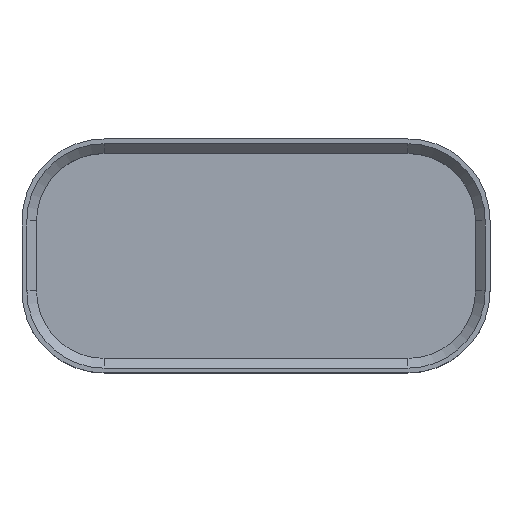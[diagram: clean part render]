
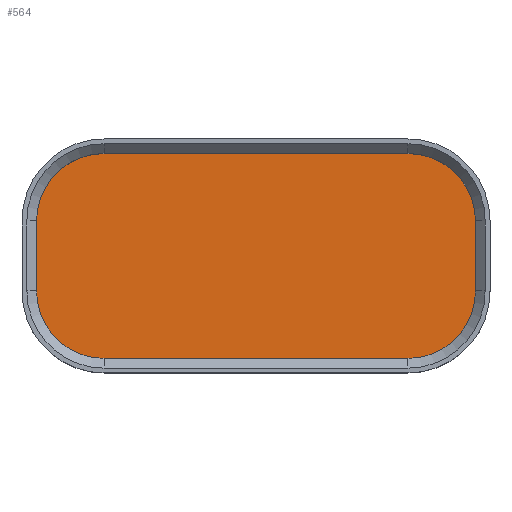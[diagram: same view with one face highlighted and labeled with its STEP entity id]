
A CAD part, top view. The second image highlights one B-rep face of the part: STEP entity #564.
In plain terms, the highlighted planar face has unit normal (0, 0, 1).
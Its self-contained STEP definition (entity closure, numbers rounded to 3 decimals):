
#30=PLANE('',#643);
#69=LINE('',#963,#117);
#72=LINE('',#971,#120);
#75=LINE('',#984,#123);
#76=LINE('',#987,#124);
#117=VECTOR('',#790,10.);
#120=VECTOR('',#799,10.);
#123=VECTOR('',#812,10.);
#124=VECTOR('',#815,10.);
#169=FACE_OUTER_BOUND('',#205,.T.);
#205=EDGE_LOOP('',(#494,#495,#496,#497,#498,#499,#500,#501));
#240=CIRCLE('',#635,14.);
#241=CIRCLE('',#638,14.);
#244=CIRCLE('',#644,14.);
#245=CIRCLE('',#645,14.);
#283=VERTEX_POINT('',#955);
#284=VERTEX_POINT('',#957);
#285=VERTEX_POINT('',#961);
#286=VERTEX_POINT('',#965);
#287=VERTEX_POINT('',#969);
#291=VERTEX_POINT('',#981);
#292=VERTEX_POINT('',#983);
#293=VERTEX_POINT('',#985);
#352=EDGE_CURVE('',#283,#284,#240,.T.);
#355=EDGE_CURVE('',#285,#283,#69,.T.);
#357=EDGE_CURVE('',#286,#285,#241,.T.);
#359=EDGE_CURVE('',#287,#286,#72,.T.);
#364=EDGE_CURVE('',#291,#287,#244,.T.);
#365=EDGE_CURVE('',#292,#291,#75,.T.);
#366=EDGE_CURVE('',#293,#292,#245,.T.);
#367=EDGE_CURVE('',#284,#293,#76,.T.);
#494=ORIENTED_EDGE('',*,*,#364,.F.);
#495=ORIENTED_EDGE('',*,*,#365,.F.);
#496=ORIENTED_EDGE('',*,*,#366,.F.);
#497=ORIENTED_EDGE('',*,*,#367,.F.);
#498=ORIENTED_EDGE('',*,*,#352,.F.);
#499=ORIENTED_EDGE('',*,*,#355,.F.);
#500=ORIENTED_EDGE('',*,*,#357,.F.);
#501=ORIENTED_EDGE('',*,*,#359,.F.);
#564=ADVANCED_FACE('',(#169),#30,.T.);
#635=AXIS2_PLACEMENT_3D('',#958,#784,#785);
#638=AXIS2_PLACEMENT_3D('',#967,#794,#795);
#643=AXIS2_PLACEMENT_3D('',#980,#808,#809);
#644=AXIS2_PLACEMENT_3D('',#982,#810,#811);
#645=AXIS2_PLACEMENT_3D('',#986,#813,#814);
#784=DIRECTION('center_axis',(0.,0.,-1.));
#785=DIRECTION('ref_axis',(0.,-1.,0.));
#790=DIRECTION('',(0.,-1.,0.));
#794=DIRECTION('center_axis',(0.,0.,-1.));
#795=DIRECTION('ref_axis',(1.,0.,0.));
#799=DIRECTION('',(1.,0.,0.));
#808=DIRECTION('center_axis',(0.,0.,1.));
#809=DIRECTION('ref_axis',(1.,0.,0.));
#810=DIRECTION('center_axis',(0.,0.,-1.));
#811=DIRECTION('ref_axis',(0.,1.,0.));
#812=DIRECTION('',(0.,1.,0.));
#813=DIRECTION('center_axis',(0.,0.,-1.));
#814=DIRECTION('ref_axis',(-1.,0.,0.));
#815=DIRECTION('',(-1.,0.,0.));
#955=CARTESIAN_POINT('',(94.,17.,3.));
#957=CARTESIAN_POINT('',(80.,3.,3.));
#958=CARTESIAN_POINT('Origin',(80.,17.,3.));
#961=CARTESIAN_POINT('',(94.,31.5,3.));
#963=CARTESIAN_POINT('',(94.,27.875,3.));
#965=CARTESIAN_POINT('',(80.,45.5,3.));
#967=CARTESIAN_POINT('Origin',(80.,31.5,3.));
#969=CARTESIAN_POINT('',(17.,45.5,3.));
#971=CARTESIAN_POINT('',(32.75,45.5,3.));
#980=CARTESIAN_POINT('Origin',(48.5,24.25,3.));
#981=CARTESIAN_POINT('',(3.,31.5,3.));
#982=CARTESIAN_POINT('Origin',(17.,31.5,3.));
#983=CARTESIAN_POINT('',(3.,17.,3.));
#984=CARTESIAN_POINT('',(3.,20.625,3.));
#985=CARTESIAN_POINT('',(17.,3.,3.));
#986=CARTESIAN_POINT('Origin',(17.,17.,3.));
#987=CARTESIAN_POINT('',(64.25,3.,3.));
